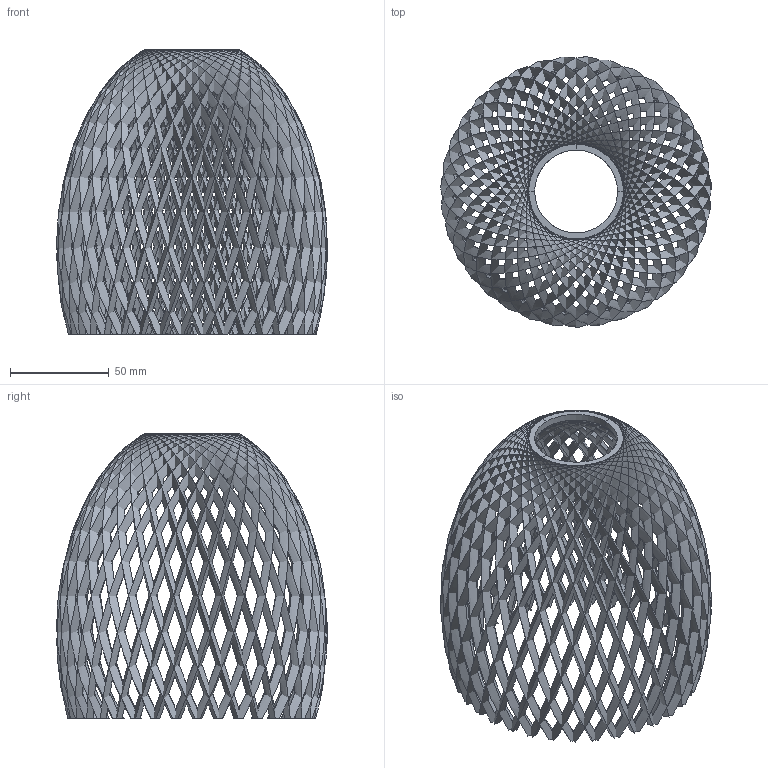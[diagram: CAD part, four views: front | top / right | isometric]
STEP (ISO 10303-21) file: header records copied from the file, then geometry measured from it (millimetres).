
FILE_DESCRIPTION(/* description */ (''),/* implementation_level */ '2;1');
FILE_NAME(/* name */ 'LAMPAR~1',/* time_stamp */ '2016-08-31T01:39:11+02:00',/* author */ (''),/* organization */ (''),/* preprocessor_version */ 'ST-DEVELOPER v15',/* originating_system */ '',/* authorisation */ '');
FILE_SCHEMA (('AUTOMOTIVE_DESIGN'));
Length unit declared in the file: millimetre
Products named in the file (1): Document
Bounding box: 137.42 x 137.39 x 144.4 mm (x, y, z)
Surface area: 186515.4 mm2
Topology: 1 solids, 66 shells, 321 faces, 1115 edges, 824 vertices
Faces by surface type: plane 170, bspline 151
Entity records: 93294 total; most frequent: CARTESIAN_POINT 86797, ORIENTED_EDGE 1630, EDGE_CURVE 1115, B_SPLINE_CURVE_WITH_KNOTS 1090, VERTEX_POINT 824, ADVANCED_FACE 321, FACE_OUTER_BOUND 321, EDGE_LOOP 321
